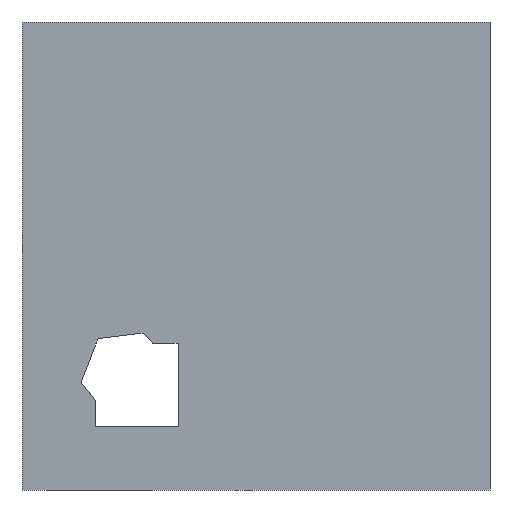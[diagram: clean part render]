
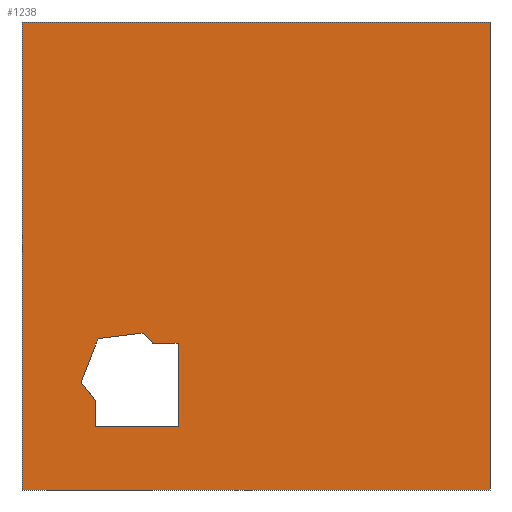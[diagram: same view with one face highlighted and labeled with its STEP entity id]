
A CAD part, front view. The second image highlights one B-rep face of the part: STEP entity #1238.
In plain terms, the highlighted planar face has unit normal (0, -1, 0).
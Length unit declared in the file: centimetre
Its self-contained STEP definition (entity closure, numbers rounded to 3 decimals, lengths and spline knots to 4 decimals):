
#9 = ORIENTED_EDGE ( 'NONE', *, *, #869, .T. ) ;
#32 = ORIENTED_EDGE ( 'NONE', *, *, #840, .F. ) ;
#44 = DIRECTION ( 'NONE',  ( 0., 0., 1. ) ) ;
#80 = EDGE_LOOP ( 'NONE', ( #1759, #1457, #523, #708, #874, #864, #1881, #441, #1902, #521, #9 ) ) ;
#131 = DIRECTION ( 'NONE',  ( 1., 0., 0. ) ) ;
#133 = CARTESIAN_POINT ( 'NONE',  ( 1000., 0., 1000. ) ) ;
#140 = CARTESIAN_POINT ( 'NONE',  ( 157.0076, 0., 135.0373 ) ) ;
#146 = VECTOR ( 'NONE', #1508, 100. ) ;
#155 = DIRECTION ( 'NONE',  ( -0.362, 0., -0.932 ) ) ;
#157 = VERTEX_POINT ( 'NONE', #502 ) ;
#171 = FACE_OUTER_BOUND ( 'NONE', #1965, .T. ) ;
#181 = CARTESIAN_POINT ( 'NONE',  ( 0., 0., 0. ) ) ;
#194 = VECTOR ( 'NONE', #131, 100. ) ;
#200 = CARTESIAN_POINT ( 'NONE',  ( 0., 0., 1000. ) ) ;
#229 = ORIENTED_EDGE ( 'NONE', *, *, #338, .T. ) ;
#231 = DIRECTION ( 'NONE',  ( 0., 0., -1. ) ) ;
#245 = EDGE_CURVE ( 'NONE', #1005, #368, #488, .T. ) ;
#252 = VECTOR ( 'NONE', #946, 100. ) ;
#268 = VECTOR ( 'NONE', #1176, 100. ) ;
#282 = CARTESIAN_POINT ( 'NONE',  ( 126.0807, 0., 229.6384 ) ) ;
#294 = LINE ( 'NONE', #2003, #1290 ) ;
#305 = CARTESIAN_POINT ( 'NONE',  ( 162.6257, 0., 323.6851 ) ) ;
#338 = EDGE_CURVE ( 'NONE', #2060, #941, #1567, .T. ) ;
#368 = VERTEX_POINT ( 'NONE', #1250 ) ;
#392 = ORIENTED_EDGE ( 'NONE', *, *, #1053, .F. ) ;
#393 = VECTOR ( 'NONE', #2171, 100. ) ;
#421 = EDGE_CURVE ( 'NONE', #1237, #2046, #1638, .T. ) ;
#441 = ORIENTED_EDGE ( 'NONE', *, *, #1604, .F. ) ;
#476 = CARTESIAN_POINT ( 'NONE',  ( 333.5158, 0., 260.3873 ) ) ;
#488 = LINE ( 'NONE', #1173, #1121 ) ;
#491 = LINE ( 'NONE', #140, #268 ) ;
#496 = LINE ( 'NONE', #476, #393 ) ;
#502 = CARTESIAN_POINT ( 'NONE',  ( 162.6257, 0., 323.6851 ) ) ;
#503 = CARTESIAN_POINT ( 'NONE',  ( 157.0076, 0., 135.0373 ) ) ;
#521 = ORIENTED_EDGE ( 'NONE', *, *, #1312, .T. ) ;
#523 = ORIENTED_EDGE ( 'NONE', *, *, #1521, .F. ) ;
#621 = VERTEX_POINT ( 'NONE', #1084 ) ;
#638 = VECTOR ( 'NONE', #1751, 100. ) ;
#662 = PLANE ( 'NONE',  #1141 ) ;
#686 = VECTOR ( 'NONE', #231, 100. ) ;
#708 = ORIENTED_EDGE ( 'NONE', *, *, #245, .T. ) ;
#723 = CARTESIAN_POINT ( 'NONE',  ( 0., 0., 1000. ) ) ;
#776 = LINE ( 'NONE', #992, #252 ) ;
#787 = EDGE_CURVE ( 'NONE', #621, #2046, #1313, .T. ) ;
#823 = DIRECTION ( 'NONE',  ( 0., 0., 1. ) ) ;
#826 = LINE ( 'NONE', #2156, #194 ) ;
#840 = EDGE_CURVE ( 'NONE', #2060, #1483, #826, .T. ) ;
#864 = ORIENTED_EDGE ( 'NONE', *, *, #1522, .F. ) ;
#869 = EDGE_CURVE ( 'NONE', #1921, #1237, #491, .T. ) ;
#874 = ORIENTED_EDGE ( 'NONE', *, *, #1553, .T. ) ;
#897 = CARTESIAN_POINT ( 'NONE',  ( 0., 0., 0. ) ) ;
#901 = CARTESIAN_POINT ( 'NONE',  ( 280.4762, 0., 313.4269 ) ) ;
#905 = ORIENTED_EDGE ( 'NONE', *, *, #1884, .T. ) ;
#934 = LINE ( 'NONE', #897, #1360 ) ;
#941 = VERTEX_POINT ( 'NONE', #181 ) ;
#946 = DIRECTION ( 'NONE',  ( -0.362, 0., -0.932 ) ) ;
#988 = CARTESIAN_POINT ( 'NONE',  ( 333.5158, 0., 135.0373 ) ) ;
#992 = CARTESIAN_POINT ( 'NONE',  ( 162.6257, 0., 323.6851 ) ) ;
#1005 = VERTEX_POINT ( 'NONE', #1366 ) ;
#1048 = LINE ( 'NONE', #1424, #638 ) ;
#1053 = EDGE_CURVE ( 'NONE', #1483, #1409, #1744, .T. ) ;
#1080 = CARTESIAN_POINT ( 'NONE',  ( 1000., 0., 1000. ) ) ;
#1084 = CARTESIAN_POINT ( 'NONE',  ( 126.0807, 0., 229.6384 ) ) ;
#1121 = VECTOR ( 'NONE', #823, 100. ) ;
#1141 = AXIS2_PLACEMENT_3D ( 'NONE', #1856, #2068, #44 ) ;
#1144 = CARTESIAN_POINT ( 'NONE',  ( 258.5943, 0., 335.3088 ) ) ;
#1165 = CARTESIAN_POINT ( 'NONE',  ( 333.5158, 0., 313.4269 ) ) ;
#1173 = CARTESIAN_POINT ( 'NONE',  ( 157.0076, 0., 135.0373 ) ) ;
#1176 = DIRECTION ( 'NONE',  ( -1., 0., 0. ) ) ;
#1213 = VECTOR ( 'NONE', #1565, 100. ) ;
#1237 = VERTEX_POINT ( 'NONE', #503 ) ;
#1238 = ADVANCED_FACE ( 'NONE', ( #1400, #171 ), #662, .F. ) ;
#1250 = CARTESIAN_POINT ( 'NONE',  ( 157.0076, 0., 313.4269 ) ) ;
#1254 = EDGE_CURVE ( 'NONE', #2041, #157, #1048, .T. ) ;
#1285 = VERTEX_POINT ( 'NONE', #901 ) ;
#1290 = VECTOR ( 'NONE', #1645, 100. ) ;
#1312 = EDGE_CURVE ( 'NONE', #1958, #1921, #2092, .T. ) ;
#1313 = LINE ( 'NONE', #282, #1549 ) ;
#1316 = LINE ( 'NONE', #1466, #146 ) ;
#1360 = VECTOR ( 'NONE', #2101, 100. ) ;
#1366 = CARTESIAN_POINT ( 'NONE',  ( 157.0076, 0., 309.2273 ) ) ;
#1400 = FACE_BOUND ( 'NONE', #80, .T. ) ;
#1409 = VERTEX_POINT ( 'NONE', #1476 ) ;
#1424 = CARTESIAN_POINT ( 'NONE',  ( 258.5943, 0., 335.3088 ) ) ;
#1457 = ORIENTED_EDGE ( 'NONE', *, *, #787, .F. ) ;
#1466 = CARTESIAN_POINT ( 'NONE',  ( 157.0076, 0., 313.4269 ) ) ;
#1468 = DIRECTION ( 'NONE',  ( 0., 0., 1. ) ) ;
#1476 = CARTESIAN_POINT ( 'NONE',  ( 1000., 0., 0. ) ) ;
#1477 = CARTESIAN_POINT ( 'NONE',  ( 158.6395, 0., 313.4269 ) ) ;
#1483 = VERTEX_POINT ( 'NONE', #133 ) ;
#1494 = VECTOR ( 'NONE', #155, 100. ) ;
#1508 = DIRECTION ( 'NONE',  ( 1., 0., 0. ) ) ;
#1521 = EDGE_CURVE ( 'NONE', #1005, #621, #776, .T. ) ;
#1522 = EDGE_CURVE ( 'NONE', #157, #1530, #1829, .T. ) ;
#1530 = VERTEX_POINT ( 'NONE', #1477 ) ;
#1549 = VECTOR ( 'NONE', #1687, 100. ) ;
#1553 = EDGE_CURVE ( 'NONE', #368, #1530, #1316, .T. ) ;
#1565 = DIRECTION ( 'NONE',  ( 0., 0., -1. ) ) ;
#1567 = LINE ( 'NONE', #723, #686 ) ;
#1604 = EDGE_CURVE ( 'NONE', #1285, #2041, #496, .T. ) ;
#1638 = LINE ( 'NONE', #1662, #1756 ) ;
#1645 = DIRECTION ( 'NONE',  ( 1., 0., 0. ) ) ;
#1655 = CARTESIAN_POINT ( 'NONE',  ( 157.0076, 0., 191.1245 ) ) ;
#1662 = CARTESIAN_POINT ( 'NONE',  ( 157.0076, 0., 135.0373 ) ) ;
#1674 = VECTOR ( 'NONE', #1943, 100. ) ;
#1687 = DIRECTION ( 'NONE',  ( 0.626, 0., -0.78 ) ) ;
#1727 = CARTESIAN_POINT ( 'NONE',  ( 333.5158, 0., 135.0373 ) ) ;
#1744 = LINE ( 'NONE', #1080, #1674 ) ;
#1751 = DIRECTION ( 'NONE',  ( -0.993, 0., -0.12 ) ) ;
#1756 = VECTOR ( 'NONE', #1468, 100. ) ;
#1759 = ORIENTED_EDGE ( 'NONE', *, *, #421, .T. ) ;
#1829 = LINE ( 'NONE', #305, #1494 ) ;
#1856 = CARTESIAN_POINT ( 'NONE',  ( 0., 0., 1000. ) ) ;
#1881 = ORIENTED_EDGE ( 'NONE', *, *, #1254, .F. ) ;
#1884 = EDGE_CURVE ( 'NONE', #941, #1409, #934, .T. ) ;
#1902 = ORIENTED_EDGE ( 'NONE', *, *, #2019, .T. ) ;
#1921 = VERTEX_POINT ( 'NONE', #988 ) ;
#1943 = DIRECTION ( 'NONE',  ( 0., 0., -1. ) ) ;
#1958 = VERTEX_POINT ( 'NONE', #1165 ) ;
#1965 = EDGE_LOOP ( 'NONE', ( #905, #392, #32, #229 ) ) ;
#2003 = CARTESIAN_POINT ( 'NONE',  ( 157.0076, 0., 313.4269 ) ) ;
#2019 = EDGE_CURVE ( 'NONE', #1285, #1958, #294, .T. ) ;
#2041 = VERTEX_POINT ( 'NONE', #1144 ) ;
#2046 = VERTEX_POINT ( 'NONE', #1655 ) ;
#2060 = VERTEX_POINT ( 'NONE', #200 ) ;
#2068 = DIRECTION ( 'NONE',  ( 0., 1., 0. ) ) ;
#2092 = LINE ( 'NONE', #1727, #1213 ) ;
#2101 = DIRECTION ( 'NONE',  ( 1., 0., 0. ) ) ;
#2156 = CARTESIAN_POINT ( 'NONE',  ( 0., 0., 1000. ) ) ;
#2171 = DIRECTION ( 'NONE',  ( -0.707, 0., 0.707 ) ) ;
